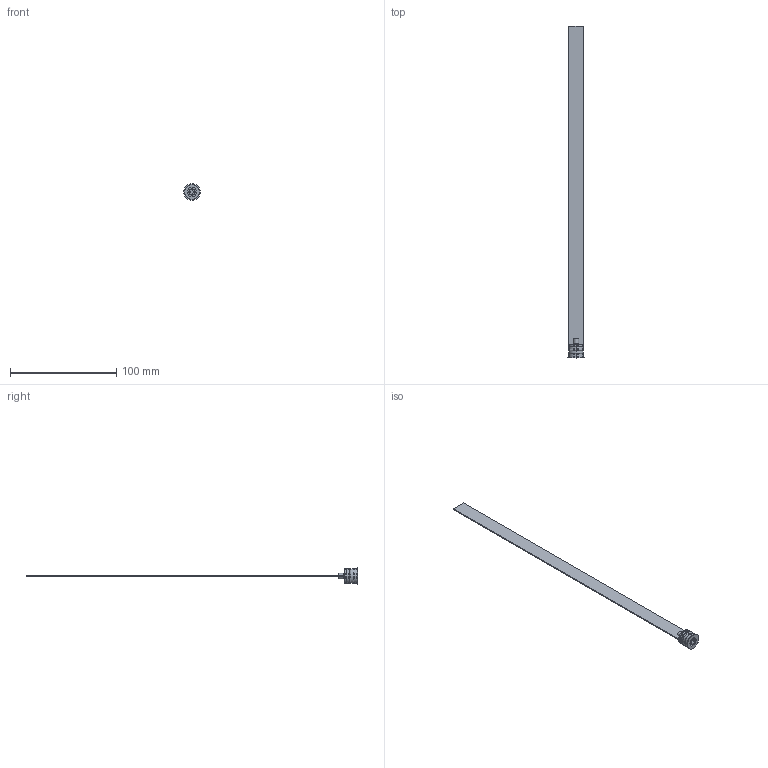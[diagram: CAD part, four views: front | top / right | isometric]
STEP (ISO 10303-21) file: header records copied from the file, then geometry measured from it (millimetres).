
FILE_DESCRIPTION (( 'STEP AP203' ), '1' );
FILE_NAME ('RL-14Fx300.STEP', '2015-12-02T10:32:54', ( 'Balzi' ), ( '' ), 'SwSTEP 2.0', 'SolidWorks 2015', '' );
FILE_SCHEMA (( 'CONFIG_CONTROL_DESIGN' ));
Length unit declared in the file: millimetre
Products named in the file (1): RL-14Fx300
Bounding box: 15.3 x 312.5 x 15.3 mm (x, y, z)
Volume: 5994.8 mm3; surface area: 10155.8 mm2
Topology: 1 solids, 1 shells, 72 faces, 171 edges, 105 vertices
Faces by surface type: plane 30, cylinder 17, cone 17, torus 8
Entity records: 2165 total; most frequent: CARTESIAN_POINT 399, DIRECTION 370, ORIENTED_EDGE 342, EDGE_CURVE 171, AXIS2_PLACEMENT_3D 140, VERTEX_POINT 105, VECTOR 90, LINE 90
